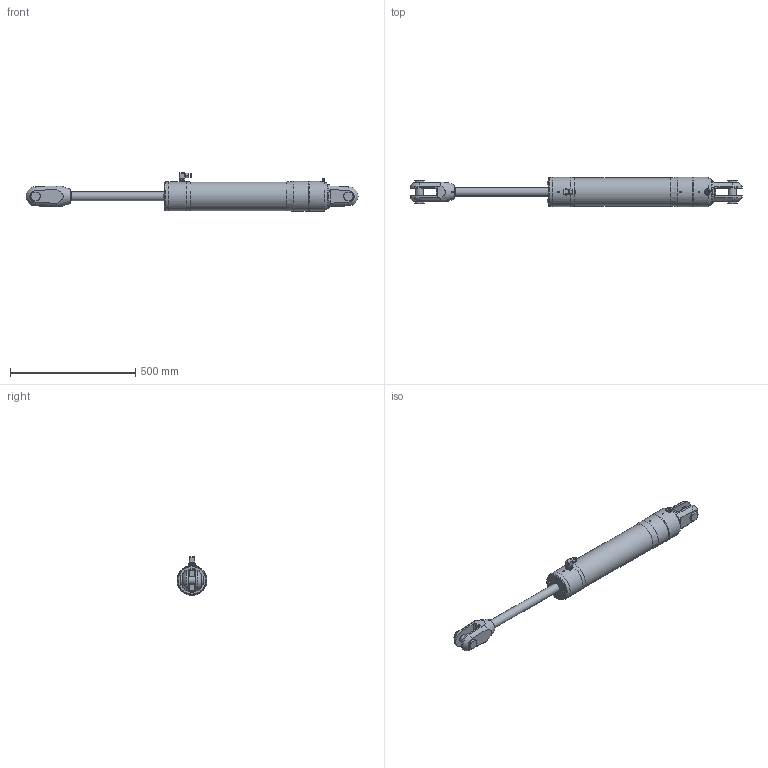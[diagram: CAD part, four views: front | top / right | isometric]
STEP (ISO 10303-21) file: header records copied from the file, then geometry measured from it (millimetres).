
FILE_DESCRIPTION(/* description */ (''),/* implementation_level */ '2;1');
FILE_NAME(/* name */ 'Q:\AA BRAND HYDRAULICS\HYDRAULICS FAMILY DIRECTORY\HYDRAULICS\CYLINDERS\RAMS\STAINLESS - STANDARD SINGLE ACTING (-0006 To -0260)\RSS-0060-S0375-NP-71\RSS-0060-S0375-NP-71 (Open).stp',/* time_stamp */ '2018-02-07T16:47:24+00:00',/* author */ ('Lorena'),/* organization */ (''),/* preprocessor_version */ 'ST-DEVELOPER v17',/* originating_system */ 'Autodesk Inventor 2018',/* authorisation */ '');
FILE_SCHEMA (('AUTOMOTIVE_DESIGN { 1 0 10303 214 3 1 1 }'));
Length unit declared in the file: millimetre
Products named in the file (1): RSS-0060-S0375-NP-71 (Open)
Bounding box: 1327.92 x 119.4 x 153.95 mm (x, y, z)
Volume: 8373971.8 mm3; surface area: 408396.4 mm2
Topology: 2 solids, 2 shells, 1764 faces, 4763 edges, 3150 vertices
Faces by surface type: plane 1006, bspline 574, cone 107, cylinder 69, sphere 4, torus 4
Full cylindrical faces by diameter (mm): 4 x1, 5 x1, 7 x1, 9 x1, 10 x2, 14 x1, 14.35 x1, 14.662 x1, 15 x2, 15.662 x1, 16.662 x2, 18 x2, 20 x2, 21.4 x3, 25 x1, 31.75 x2, 35 x1, 39.688 x2, 112.8 x1, 114.4 x1, 117.4 x1, 118.4 x1, 119.4 x2
Entity records: 63079 total; most frequent: CARTESIAN_POINT 21199, ORIENTED_EDGE 9516, DIRECTION 6210, EDGE_CURVE 4758, VERTEX_POINT 3152, LINE 2956, VECTOR 2956, EDGE_LOOP 1926
